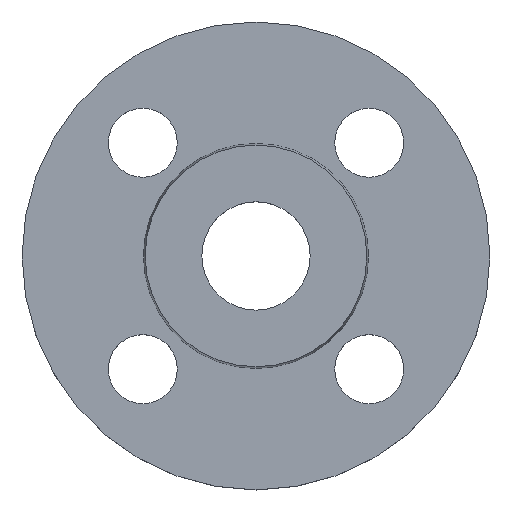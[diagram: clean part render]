
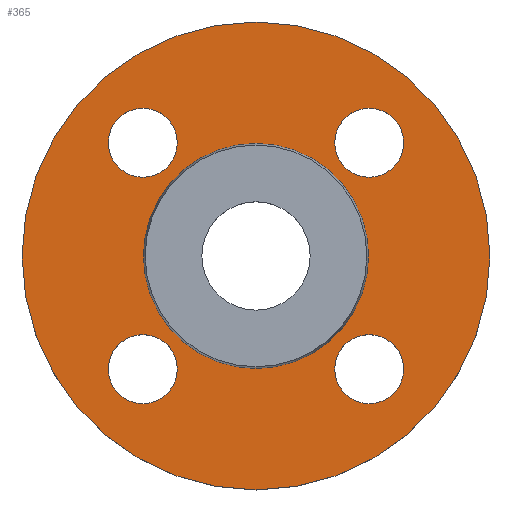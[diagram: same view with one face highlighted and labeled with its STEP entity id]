
A CAD part, top view. The second image highlights one B-rep face of the part: STEP entity #365.
In plain terms, the highlighted planar face has unit normal (0, 0, 1).
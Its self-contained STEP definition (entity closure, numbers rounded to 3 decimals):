
#5 = AXIS2_PLACEMENT_3D ( 'NONE', #178, #179, #180 ) ;
#7 = CIRCLE ( 'NONE', #572, 7. ) ;
#17 = CIRCLE ( 'NONE', #22, 7. ) ;
#18 = EDGE_CURVE ( 'NONE', #258, #244, #259, .T. ) ;
#20 = EDGE_CURVE ( 'NONE', #224, #384, #17, .T. ) ;
#21 = AXIS2_PLACEMENT_3D ( 'NONE', #520, #521, #522 ) ;
#22 = AXIS2_PLACEMENT_3D ( 'NONE', #420, #421, #422 ) ;
#28 = CIRCLE ( 'NONE', #231, 7. ) ;
#31 = CARTESIAN_POINT ( 'NONE',  ( -47.5, 0., -2. ) ) ;
#37 = EDGE_CURVE ( 'NONE', #386, #376, #414, .T. ) ;
#39 = EDGE_CURVE ( 'NONE', #376, #386, #186, .T. ) ;
#44 = EDGE_CURVE ( 'NONE', #207, #211, #240, .T. ) ;
#65 = EDGE_CURVE ( 'NONE', #210, #284, #7, .T. ) ;
#68 = CIRCLE ( 'NONE', #117, 7. ) ;
#71 = CIRCLE ( 'NONE', #187, 22.853 ) ;
#80 = CIRCLE ( 'NONE', #232, 7. ) ;
#81 = AXIS2_PLACEMENT_3D ( 'NONE', #156, #159, #161 ) ;
#94 = CIRCLE ( 'NONE', #21, 7. ) ;
#101 = CARTESIAN_POINT ( 'NONE',  ( 47.5, 0., -2. ) ) ;
#102 = CARTESIAN_POINT ( 'NONE',  ( -22.981, -22.981, -2. ) ) ;
#103 = DIRECTION ( 'NONE',  ( 0., 0., -1. ) ) ;
#104 = DIRECTION ( 'NONE',  ( 1., 0., 0. ) ) ;
#105 = CARTESIAN_POINT ( 'NONE',  ( 15.981, -22.981, -2. ) ) ;
#116 = EDGE_CURVE ( 'NONE', #262, #381, #94, .T. ) ;
#117 = AXIS2_PLACEMENT_3D ( 'NONE', #102, #103, #104 ) ;
#120 = CARTESIAN_POINT ( 'NONE',  ( -29.981, -22.981, -2. ) ) ;
#121 = CARTESIAN_POINT ( 'NONE',  ( 0., 0., -2. ) ) ;
#122 = DIRECTION ( 'NONE',  ( 0., 0., -1. ) ) ;
#123 = DIRECTION ( 'NONE',  ( -1., 0., 0. ) ) ;
#132 = CARTESIAN_POINT ( 'NONE',  ( 22.981, 22.981, -2. ) ) ;
#133 = DIRECTION ( 'NONE',  ( 0., 0., -1. ) ) ;
#134 = DIRECTION ( 'NONE',  ( 1., 0., 0. ) ) ;
#148 = FACE_BOUND ( 'NONE', #388, .T. ) ;
#149 = FACE_BOUND ( 'NONE', #190, .T. ) ;
#150 = FACE_BOUND ( 'NONE', #373, .T. ) ;
#152 = FACE_BOUND ( 'NONE', #369, .T. ) ;
#153 = FACE_BOUND ( 'NONE', #195, .T. ) ;
#154 = FACE_OUTER_BOUND ( 'NONE', #191, .T. ) ;
#155 = PLANE ( 'NONE',  #81 ) ;
#156 = CARTESIAN_POINT ( 'NONE',  ( 22.853, 0., -2. ) ) ;
#158 = CIRCLE ( 'NONE', #5, 47.5 ) ;
#159 = DIRECTION ( 'NONE',  ( 0., 0., 1. ) ) ;
#161 = DIRECTION ( 'NONE',  ( 1., 0., 0. ) ) ;
#165 = CARTESIAN_POINT ( 'NONE',  ( -15.981, 22.981, -2. ) ) ;
#167 = CARTESIAN_POINT ( 'NONE',  ( 29.981, -22.981, -2. ) ) ;
#168 = AXIS2_PLACEMENT_3D ( 'NONE', #448, #449, #450 ) ;
#170 = CARTESIAN_POINT ( 'NONE',  ( 15.981, 22.981, -2. ) ) ;
#173 = CARTESIAN_POINT ( 'NONE',  ( -29.981, 22.981, -2. ) ) ;
#178 = CARTESIAN_POINT ( 'NONE',  ( 0., 0., -2. ) ) ;
#179 = DIRECTION ( 'NONE',  ( 0., 0., -1. ) ) ;
#180 = DIRECTION ( 'NONE',  ( -1., 0., 0. ) ) ;
#181 = AXIS2_PLACEMENT_3D ( 'NONE', #427, #428, #429 ) ;
#186 = CIRCLE ( 'NONE', #477, 7. ) ;
#187 = AXIS2_PLACEMENT_3D ( 'NONE', #121, #122, #123 ) ;
#190 = EDGE_LOOP ( 'NONE', ( #298, #300 ) ) ;
#191 = EDGE_LOOP ( 'NONE', ( #312, #313 ) ) ;
#195 = EDGE_LOOP ( 'NONE', ( #309, #310 ) ) ;
#207 = VERTEX_POINT ( 'NONE', #573 ) ;
#210 = VERTEX_POINT ( 'NONE', #574 ) ;
#211 = VERTEX_POINT ( 'NONE', #575 ) ;
#217 = CARTESIAN_POINT ( 'NONE',  ( 22.981, -22.981, -2. ) ) ;
#218 = DIRECTION ( 'NONE',  ( 0., 0., -1. ) ) ;
#219 = DIRECTION ( 'NONE',  ( 1., 0., 0. ) ) ;
#224 = VERTEX_POINT ( 'NONE', #579 ) ;
#231 = AXIS2_PLACEMENT_3D ( 'NONE', #132, #133, #134 ) ;
#232 = AXIS2_PLACEMENT_3D ( 'NONE', #217, #218, #219 ) ;
#240 = CIRCLE ( 'NONE', #168, 22.853 ) ;
#244 = VERTEX_POINT ( 'NONE', #31 ) ;
#258 = VERTEX_POINT ( 'NONE', #101 ) ;
#259 = CIRCLE ( 'NONE', #281, 47.5 ) ;
#260 = EDGE_CURVE ( 'NONE', #284, #210, #68, .T. ) ;
#262 = VERTEX_POINT ( 'NONE', #105 ) ;
#281 = AXIS2_PLACEMENT_3D ( 'NONE', #417, #418, #419 ) ;
#284 = VERTEX_POINT ( 'NONE', #120 ) ;
#287 = EDGE_CURVE ( 'NONE', #211, #207, #71, .T. ) ;
#296 = ORIENTED_EDGE ( 'NONE', *, *, #541, .T. ) ;
#297 = ORIENTED_EDGE ( 'NONE', *, *, #116, .T. ) ;
#298 = ORIENTED_EDGE ( 'NONE', *, *, #65, .T. ) ;
#300 = ORIENTED_EDGE ( 'NONE', *, *, #260, .T. ) ;
#301 = ORIENTED_EDGE ( 'NONE', *, *, #39, .T. ) ;
#303 = ORIENTED_EDGE ( 'NONE', *, *, #37, .T. ) ;
#306 = ORIENTED_EDGE ( 'NONE', *, *, #20, .T. ) ;
#308 = ORIENTED_EDGE ( 'NONE', *, *, #319, .T. ) ;
#309 = ORIENTED_EDGE ( 'NONE', *, *, #44, .T. ) ;
#310 = ORIENTED_EDGE ( 'NONE', *, *, #287, .T. ) ;
#312 = ORIENTED_EDGE ( 'NONE', *, *, #18, .F. ) ;
#313 = ORIENTED_EDGE ( 'NONE', *, *, #469, .F. ) ;
#319 = EDGE_CURVE ( 'NONE', #384, #224, #28, .T. ) ;
#365 = ADVANCED_FACE ( 'NONE', ( #148, #149, #150, #152, #153, #154 ), #155, .T. ) ;
#369 = EDGE_LOOP ( 'NONE', ( #306, #308 ) ) ;
#373 = EDGE_LOOP ( 'NONE', ( #301, #303 ) ) ;
#376 = VERTEX_POINT ( 'NONE', #165 ) ;
#381 = VERTEX_POINT ( 'NONE', #167 ) ;
#384 = VERTEX_POINT ( 'NONE', #170 ) ;
#386 = VERTEX_POINT ( 'NONE', #173 ) ;
#388 = EDGE_LOOP ( 'NONE', ( #296, #297 ) ) ;
#414 = CIRCLE ( 'NONE', #181, 7. ) ;
#417 = CARTESIAN_POINT ( 'NONE',  ( 0., 0., -2. ) ) ;
#418 = DIRECTION ( 'NONE',  ( 0., 0., -1. ) ) ;
#419 = DIRECTION ( 'NONE',  ( -1., 0., 0. ) ) ;
#420 = CARTESIAN_POINT ( 'NONE',  ( 22.981, 22.981, -2. ) ) ;
#421 = DIRECTION ( 'NONE',  ( 0., 0., -1. ) ) ;
#422 = DIRECTION ( 'NONE',  ( 1., 0., 0. ) ) ;
#427 = CARTESIAN_POINT ( 'NONE',  ( -22.981, 22.981, -2. ) ) ;
#428 = DIRECTION ( 'NONE',  ( 0., 0., -1. ) ) ;
#429 = DIRECTION ( 'NONE',  ( 1., 0., 0. ) ) ;
#433 = CARTESIAN_POINT ( 'NONE',  ( -22.981, 22.981, -2. ) ) ;
#435 = DIRECTION ( 'NONE',  ( 0., 0., -1. ) ) ;
#437 = DIRECTION ( 'NONE',  ( 1., 0., 0. ) ) ;
#448 = CARTESIAN_POINT ( 'NONE',  ( 0., 0., -2. ) ) ;
#449 = DIRECTION ( 'NONE',  ( 0., 0., -1. ) ) ;
#450 = DIRECTION ( 'NONE',  ( -1., 0., 0. ) ) ;
#468 = CARTESIAN_POINT ( 'NONE',  ( -22.981, -22.981, -2. ) ) ;
#469 = EDGE_CURVE ( 'NONE', #244, #258, #158, .T. ) ;
#470 = DIRECTION ( 'NONE',  ( 0., 0., -1. ) ) ;
#471 = DIRECTION ( 'NONE',  ( 1., 0., 0. ) ) ;
#477 = AXIS2_PLACEMENT_3D ( 'NONE', #433, #435, #437 ) ;
#520 = CARTESIAN_POINT ( 'NONE',  ( 22.981, -22.981, -2. ) ) ;
#521 = DIRECTION ( 'NONE',  ( 0., 0., -1. ) ) ;
#522 = DIRECTION ( 'NONE',  ( 1., 0., 0. ) ) ;
#541 = EDGE_CURVE ( 'NONE', #381, #262, #80, .T. ) ;
#572 = AXIS2_PLACEMENT_3D ( 'NONE', #468, #470, #471 ) ;
#573 = CARTESIAN_POINT ( 'NONE',  ( -22.853, 0., -2. ) ) ;
#574 = CARTESIAN_POINT ( 'NONE',  ( -15.981, -22.981, -2. ) ) ;
#575 = CARTESIAN_POINT ( 'NONE',  ( 22.853, 0., -2. ) ) ;
#579 = CARTESIAN_POINT ( 'NONE',  ( 29.981, 22.981, -2. ) ) ;
